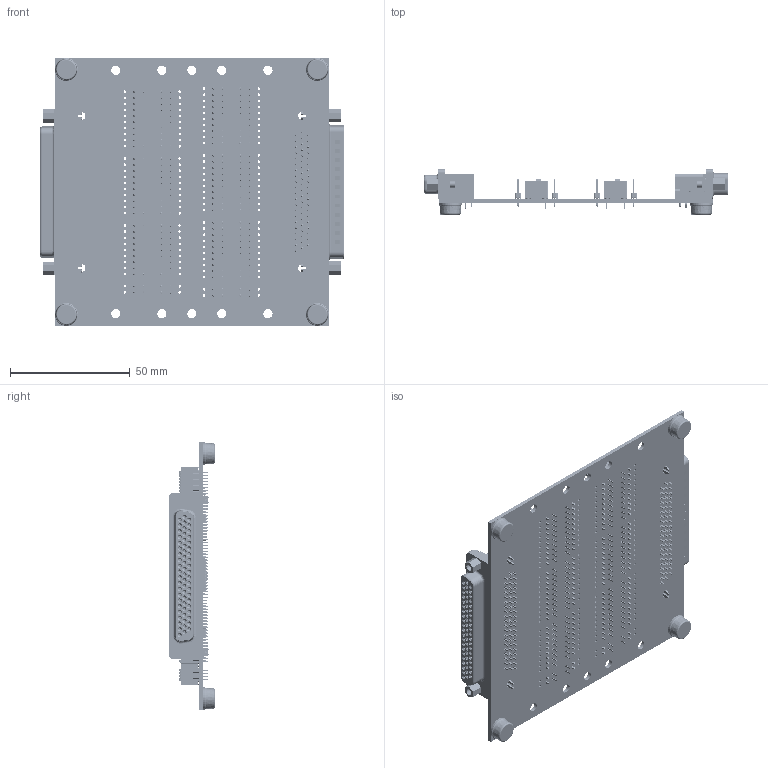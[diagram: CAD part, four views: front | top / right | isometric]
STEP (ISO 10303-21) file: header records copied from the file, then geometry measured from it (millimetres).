
FILE_DESCRIPTION (( 'STEP AP214' ), '1' );
FILE_NAME ('btsd62hd-r-ft_rev_a.step', '2023-06-19T13:35:58', ( '' ), ( '' ), 'SwSTEP 2.0', 'SolidWorks 2018', '' );
FILE_SCHEMA (( 'AUTOMOTIVE_DESIGN' ));
Length unit declared in the file: inch
Products named in the file (12): DIP Switch 2 Pin; BTSD62HD_PCB; RubberFoot_round; btsd62hd-r-ft_rev_a; Female Right Angle 62 Pin; 62 Pin Male D-sub Connector; single row header- 9 position; DIP Switch 9 Pin; #4-40 Hex Screw; single row header- 2 position; DIP Switch 10 pin; single row header- 10 position
Assembly tree (35 placements, depth 2):
  btsd62hd-r-ft_rev_a
    BTSD62HD_PCB
    62 Pin Male D-sub Connector
    Female Right Angle 62 Pin
    #4-40 Hex Screw  x4
    DIP Switch 10 pin  x5
    DIP Switch 9 Pin
    DIP Switch 2 Pin  x2
    single row header- 10 position  x10
    single row header- 9 position  x2
    single row header- 2 position  x4
    RubberFoot_round  x4
Bounding box: 126.71 x 18.95 x 111.76 mm (x, y, z)
Volume: 52914.9 mm3; surface area: 82552.1 mm2
Topology: 370 solids, 374 shells, 26476 faces, 70873 edges, 45799 vertices
Faces by surface type: plane 18632, cylinder 3697, bspline 3530, sphere 248, cone 202, torus 167
Entity records: 809631 total; most frequent: CARTESIAN_POINT 260698, ORIENTED_EDGE 93248, DIRECTION 76908, EDGE_CURVE 46624, LINE 32838, VECTOR 32838, VERTEX_POINT 30411, AXIS2_PLACEMENT_3D 22035
